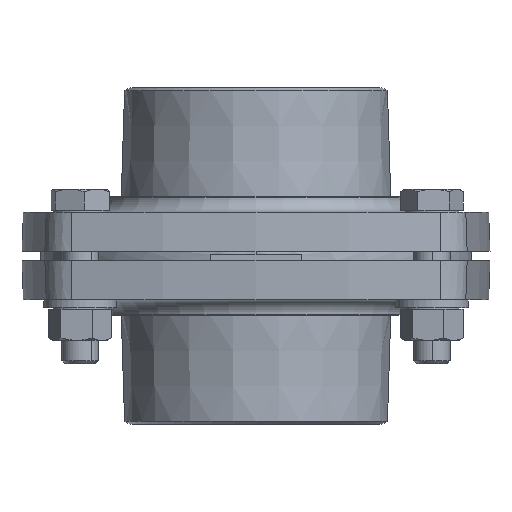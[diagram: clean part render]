
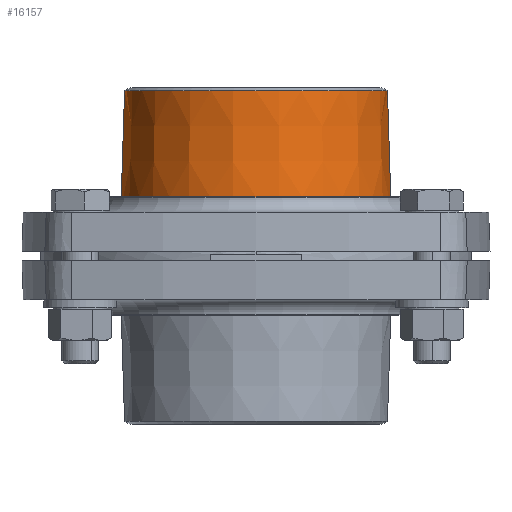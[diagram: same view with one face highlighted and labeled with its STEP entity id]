
A CAD part, front view. The second image highlights one B-rep face of the part: STEP entity #16157.
In plain terms, the highlighted conical face has half-angle 1.788 degrees and reference radius 44.421 mm.
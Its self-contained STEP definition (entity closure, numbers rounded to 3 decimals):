
#388 = EDGE_LOOP ( 'NONE', ( #411, #412, #413, #415 ) ) ;
#411 = ORIENTED_EDGE ( 'NONE', *, *, #8182, .F. ) ;
#412 = ORIENTED_EDGE ( 'NONE', *, *, #10001, .T. ) ;
#413 = ORIENTED_EDGE ( 'NONE', *, *, #8186, .T. ) ;
#415 = ORIENTED_EDGE ( 'NONE', *, *, #9999, .F. ) ;
#2604 = CARTESIAN_POINT ( 'NONE',  ( -40.357, -1.472, 13.293 ) ) ;
#2605 = DIRECTION ( 'NONE',  ( 0., 0., -1. ) ) ;
#2606 = DIRECTION ( 'NONE',  ( -1., 0., 0. ) ) ;
#2607 = CARTESIAN_POINT ( 'NONE',  ( -40.357, -1.472, 48.294 ) ) ;
#2608 = DIRECTION ( 'NONE',  ( 0., 0., -1. ) ) ;
#2609 = DIRECTION ( 'NONE',  ( 1., 0., 0. ) ) ;
#3318 = DIRECTION ( 'NONE',  ( 0., 0., -1. ) ) ;
#3330 = CARTESIAN_POINT ( 'NONE',  ( -40.357, -1.472, 13.293 ) ) ;
#3338 = DIRECTION ( 'NONE',  ( -1., 0., 0. ) ) ;
#3953 = LINE ( 'NONE', #9863, #3957 ) ;
#3954 = LINE ( 'NONE', #9879, #3960 ) ;
#3957 = VECTOR ( 'NONE', #9874, 1000. ) ;
#3960 = VECTOR ( 'NONE', #9872, 1000. ) ;
#4158 = CIRCLE ( 'NONE', #8312, 44.421 ) ;
#4159 = CIRCLE ( 'NONE', #8314, 43.328 ) ;
#4712 = CARTESIAN_POINT ( 'NONE',  ( -84.778, -1.472, 13.293 ) ) ;
#4713 = CARTESIAN_POINT ( 'NONE',  ( 4.064, -1.472, 13.293 ) ) ;
#4714 = CARTESIAN_POINT ( 'NONE',  ( 2.971, -1.472, 48.294 ) ) ;
#4715 = CARTESIAN_POINT ( 'NONE',  ( -83.685, -1.472, 48.294 ) ) ;
#8182 = EDGE_CURVE ( 'NONE', #8788, #8787, #3953, .T. ) ;
#8186 = EDGE_CURVE ( 'NONE', #8789, #8786, #3954, .T. ) ;
#8312 = AXIS2_PLACEMENT_3D ( 'NONE', #2604, #2605, #2606 ) ;
#8314 = AXIS2_PLACEMENT_3D ( 'NONE', #2607, #2608, #2609 ) ;
#8786 = VERTEX_POINT ( 'NONE', #4712 ) ;
#8787 = VERTEX_POINT ( 'NONE', #4713 ) ;
#8788 = VERTEX_POINT ( 'NONE', #4714 ) ;
#8789 = VERTEX_POINT ( 'NONE', #4715 ) ;
#9863 = CARTESIAN_POINT ( 'NONE',  ( 4.064, -1.472, 13.293 ) ) ;
#9872 = DIRECTION ( 'NONE',  ( -0.031, 0., -1. ) ) ;
#9874 = DIRECTION ( 'NONE',  ( 0.031, 0., -1. ) ) ;
#9879 = CARTESIAN_POINT ( 'NONE',  ( -84.778, -1.472, 13.293 ) ) ;
#9999 = EDGE_CURVE ( 'NONE', #8787, #8786, #4158, .T. ) ;
#10001 = EDGE_CURVE ( 'NONE', #8788, #8789, #4159, .T. ) ;
#10938 = AXIS2_PLACEMENT_3D ( 'NONE', #3330, #3318, #3338 ) ;
#13555 = FACE_OUTER_BOUND ( 'NONE', #388, .T. ) ;
#13564 = CONICAL_SURFACE ( 'NONE', #10938, 44.421, 0.031 ) ;
#16157 = ADVANCED_FACE ( 'NONE', ( #13555 ), #13564, .T. ) ;
